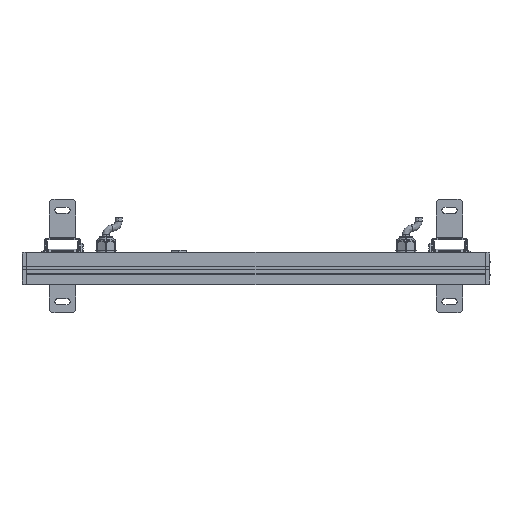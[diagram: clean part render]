
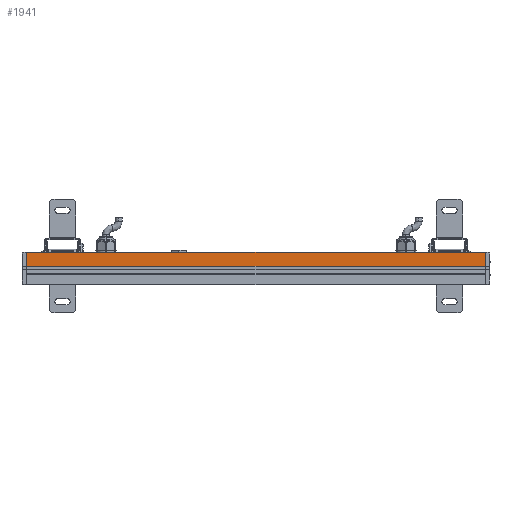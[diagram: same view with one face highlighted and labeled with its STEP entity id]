
A CAD part, left-side view. The second image highlights one B-rep face of the part: STEP entity #1941.
In plain terms, the highlighted planar face has unit normal (-1, 0, 0).
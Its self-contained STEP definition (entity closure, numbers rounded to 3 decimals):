
#2=DIRECTION('',(0.,1.,0.));
#3=VECTOR('',#2,484.5);
#4=CARTESIAN_POINT('',(-21.,-242.25,0.8));
#5=LINE('',#4,#3);
#170=DIRECTION('',(0.,0.,1.));
#171=VECTOR('',#170,14.7);
#172=CARTESIAN_POINT('',(-21.,-242.25,0.8));
#173=LINE('',#172,#171);
#486=DIRECTION('',(0.,0.,-1.));
#487=VECTOR('',#486,14.7);
#488=CARTESIAN_POINT('',(-21.,242.25,15.5));
#489=LINE('',#488,#487);
#936=DIRECTION('',(0.,-1.,0.));
#937=VECTOR('',#936,484.5);
#938=CARTESIAN_POINT('',(-21.,242.25,15.5));
#939=LINE('',#938,#937);
#1610=CARTESIAN_POINT('',(-21.,-242.25,15.5));
#1611=VERTEX_POINT('',#1610);
#1786=CARTESIAN_POINT('',(-21.,242.25,15.5));
#1787=VERTEX_POINT('',#1786);
#1838=CARTESIAN_POINT('',(-21.,-242.25,0.8));
#1839=CARTESIAN_POINT('',(-21.,242.25,0.8));
#1840=VERTEX_POINT('',#1838);
#1841=VERTEX_POINT('',#1839);
#1926=CARTESIAN_POINT('',(-21.,-481.5,-18.5));
#1927=DIRECTION('',(-1.,0.,0.));
#1928=DIRECTION('',(0.,0.,1.));
#1929=AXIS2_PLACEMENT_3D('',#1926,#1927,#1928);
#1930=PLANE('',#1929);
#1932=ORIENTED_EDGE('',*,*,#1931,.T.);
#1934=ORIENTED_EDGE('',*,*,#1933,.F.);
#1936=ORIENTED_EDGE('',*,*,#1935,.T.);
#1938=ORIENTED_EDGE('',*,*,#1937,.F.);
#1939=EDGE_LOOP('',(#1932,#1934,#1936,#1938));
#1940=FACE_OUTER_BOUND('',#1939,.F.);
#1941=ADVANCED_FACE('',(#1940),#1930,.T.);
#1931=EDGE_CURVE('',#1840,#1841,#5,.T.);
#1933=EDGE_CURVE('',#1787,#1841,#489,.T.);
#1935=EDGE_CURVE('',#1787,#1611,#939,.T.);
#1937=EDGE_CURVE('',#1840,#1611,#173,.T.);
